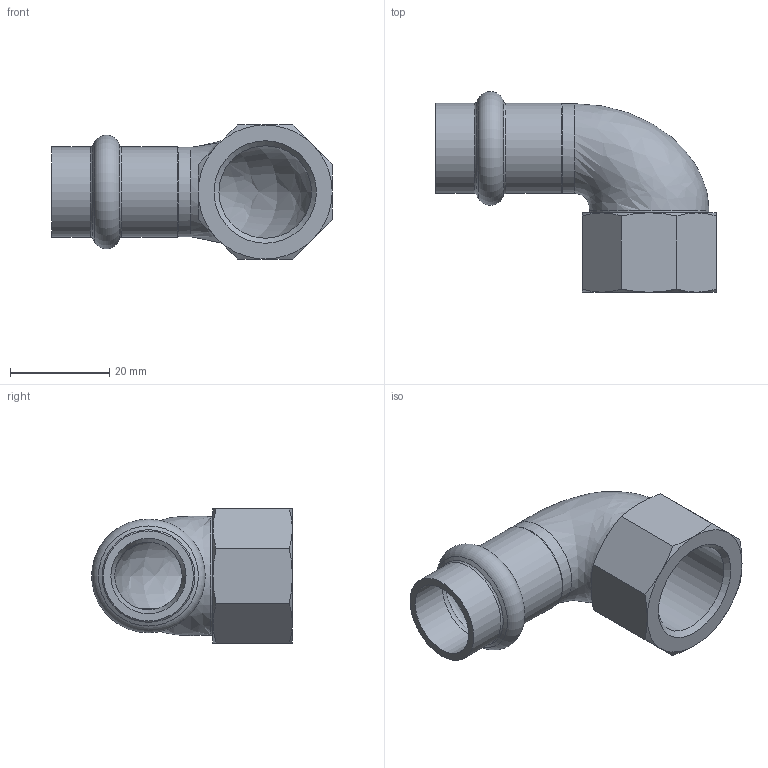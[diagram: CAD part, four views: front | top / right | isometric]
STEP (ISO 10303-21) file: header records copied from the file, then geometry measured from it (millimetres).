
FILE_DESCRIPTION((''),'2;1');
FILE_NAME('G:\Nirosan-Schmiedefeld\Technics\CAD\Bauteile VA\015\69090IG1512(2).stp','2011-10-26T11:45:01',('herberg'),(''),'Autodesk Inventor 2009','Autodesk Inventor 2009','');
FILE_SCHEMA(('AUTOMOTIVE_DESIGN { 1 0 10303 214 1 1 1 1 }'));
Length unit declared in the file: millimetre
Products named in the file (1): 69090IG1512(2)
Bounding box: 56.5 x 40.45 x 27 mm (x, y, z)
Volume: 10645.9 mm3; surface area: 8854 mm2
Topology: 1 solids, 1 shells, 50 faces, 119 edges, 72 vertices
Faces by surface type: cone 21, plane 11, bspline 8, cylinder 7, torus 3
Full cylindrical faces by diameter (mm): 13.6 x1, 15.15 x2, 18 x1, 18.15 x2, 24 x1
Entity records: 1945 total; most frequent: CARTESIAN_POINT 952, DIRECTION 200, ORIENTED_EDGE 190, AXIS2_PLACEMENT_3D 96, EDGE_CURVE 95, EDGE_LOOP 74, VERTEX_POINT 69, CIRCLE 53
